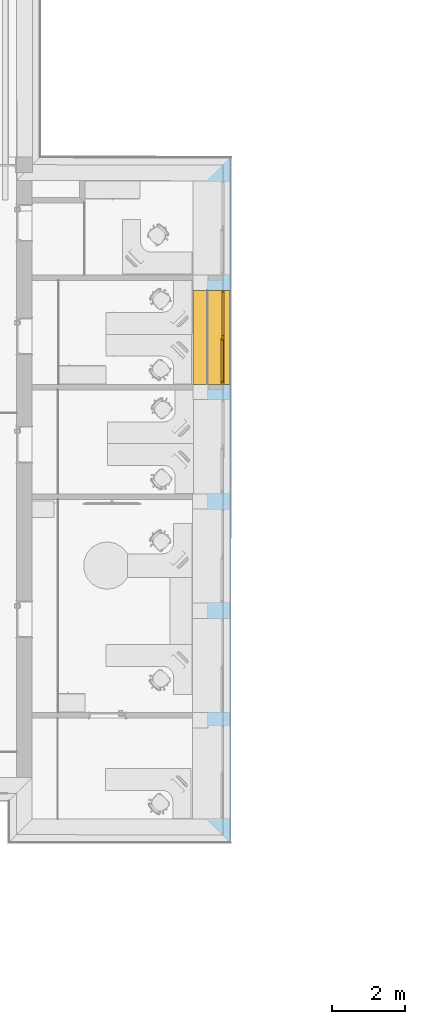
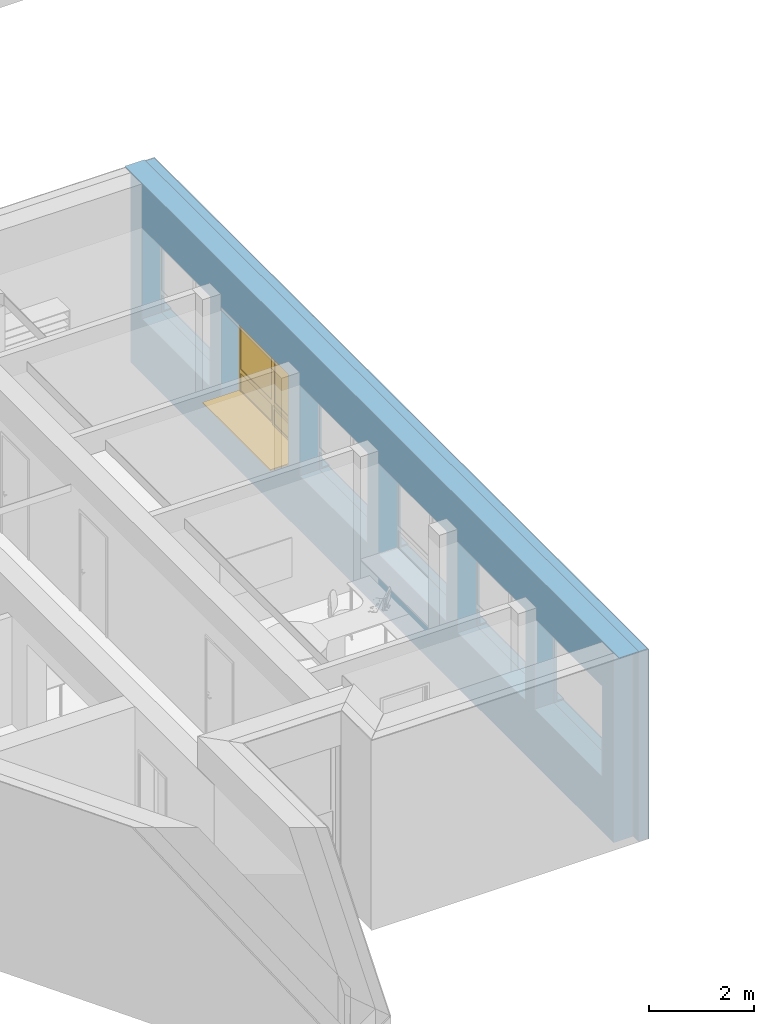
# One storey, part 80 of 194: 1 window, 6 openings, 1 element without a shape of its own, plus 3 elements that do not belong to this part.
"""IFC2X3 building model written with IfcOpenShell, lengths in millimetres."""

from ifc_helpers import new_model, entity, si_unit, converted_unit, derived_unit, money_unit, direction, frame, origin_with_axes, origin_2d_with_axis, place, context, subcontext, project, spatial, polyline, rectangle, outline, extrude, boolean, open_shell, faceted_brep, surface_model, material, type_object, element, fill, aggregate, save


model = new_model("IFC2X3")

# Units and contexts
model_context = context("Model", 3, precision=1e-05, world=origin_with_axes(), true_north=direction((0.0, 1.0)))
body_context = subcontext(model_context, "Body", "Model", "MODEL_VIEW")
ifc_project = project(units=[si_unit("LENGTHUNIT", "METRE", prefix="MILLI"), si_unit("AREAUNIT", "SQUARE_METRE"), si_unit("VOLUMEUNIT", "CUBIC_METRE"), converted_unit("PLANEANGLEUNIT", "DEGREE", entity("IfcPlaneAngleMeasure", 0.0174532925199), si_unit("PLANEANGLEUNIT", "RADIAN"), dimensions=[0, 0, 0, 0, 0, 0, 0]), si_unit("SOLIDANGLEUNIT", "STERADIAN"), money_unit("EUR"), converted_unit("TIMEUNIT", "Year", entity("IfcTimeMeasure", 31556926.0), si_unit("TIMEUNIT", "SECOND"), dimensions=[0, 0, 1, 0, 0, 0, 0]), si_unit("MASSUNIT", "GRAM", prefix="KILO"), si_unit("THERMODYNAMICTEMPERATUREUNIT", "DEGREE_CELSIUS"), si_unit("LUMINOUSINTENSITYUNIT", "LUMEN"), si_unit("ENERGYUNIT", "JOULE", prefix="MEGA"), derived_unit("THERMALCONDUCTANCEUNIT", [(si_unit("POWERUNIT", "WATT"), 1), (si_unit("LENGTHUNIT", "METRE"), -1), (si_unit("THERMODYNAMICTEMPERATUREUNIT", "KELVIN"), -1)]), derived_unit("SPECIFICHEATCAPACITYUNIT", [(si_unit("ENERGYUNIT", "JOULE"), 1), (si_unit("MASSUNIT", "GRAM", prefix="KILO"), -1), (si_unit("THERMODYNAMICTEMPERATUREUNIT", "KELVIN"), -1)]), derived_unit("MASSDENSITYUNIT", [(si_unit("MASSUNIT", "GRAM", prefix="KILO"), 1), (si_unit("VOLUMEUNIT", "CUBIC_METRE"), -1)])], contexts=[model_context])

# Site, building, storey
site_placement = place(None, origin_with_axes())
site = spatial("IfcSite", under=ifc_project, at=site_placement, Name="Site", CompositionType="ELEMENT")
building_placement = place(site_placement, origin_with_axes())
building = spatial("IfcBuilding", under=site, at=building_placement, Name="Building", CompositionType="ELEMENT")
storey_placement = place(building_placement, frame((0.0, 0.0, 3000.0), z_axis=(0.0, 0.0, 1.0), x_axis=(1.0, 0.0, 0.0)))
storey = spatial("IfcBuildingStorey", under=building, at=storey_placement, Name="2 KORRUS", CompositionType="ELEMENT", Elevation=3000.0)

# Window
window_style = type_object("IfcWindowStyle", Name="A2   2\xa0580×2\xa0100", ConstructionType="NOTDEFINED", OperationType="USERDEFINED", ParameterTakesPrecedence=False, Sizeable=False)
wall_placement = place(storey_placement, frame((45388.6906963, 4389.96789684, -420.0), z_axis=(0.0, 0.0, 1.0), x_axis=(0.000555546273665, 0.999999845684, 0.0)))
opening_4_placement = place(wall_placement, frame((13639.8047206, -1.13686837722e-10, 1270.0), z_axis=(0.0, 0.0, 1.0), x_axis=(1.0, 0.0, 0.0)))
window_placement = place(opening_4_placement, frame((-1290.0, 2.27373675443e-10, 0.0), z_axis=(0.0, 0.0, 1.0), x_axis=(1.0, 0.0, 0.0)))
window = element("IfcWindow", 1, at=window_placement, inside=storey, type_object=window_style, Name="välisaken * Double Window 22", OverallHeight=2100.0, OverallWidth=2580.0, context=body_context, shape_type="SurfaceModel", body=[
    faceted_brep([(9.09494701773e-10, -20.0000000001, 30.0), (9.09494701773e-10, -20.0000000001, 5.0), (9.09494701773e-10, -220.0, 5.0), (9.09494701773e-10, -220.0, 19.5184441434), (2580.0, -20.0, 30.0), (2580.0, -20.0, 5.0), (2580.0, -220.0, 5.0), (2580.0, -220.0, 19.5184441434)], [[[0, 1, 2, 3]], [[4, 5, 1, 0]], [[2, 1, 5, 6]], [[3, 2, 6, 7]], [[4, 0, 3, 7]], [[7, 6, 5, 4]]]),
    faceted_brep([(9.09494701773e-10, -20.0000000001, 0.0), (9.09494701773e-10, -220.0, 0.0), (9.09494701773e-10, -220.0, 5.0), (9.09494701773e-10, -20.0000000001, 5.0), (2580.0, -20.0, 0.0), (2580.0, -220.0, 0.0), (2580.0, -220.0, 5.0), (2580.0, -20.0, 5.0)], [[[0, 1, 2, 3]], [[0, 4, 5, 1]], [[1, 5, 6, 2]], [[3, 2, 6, 7]], [[4, 0, 3, 7]], [[5, 4, 7, 6]]]),
    faceted_brep([(2580.0, 30.0, 0.0), (2580.0, 430.0, 0.0), (2580.0, 430.0, 30.0), (2580.0, 30.0, 30.0), (9.09494701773e-10, 30.0, 0.0), (9.09494701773e-10, 430.0, 0.0), (9.09494701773e-10, 830.0, 0.0), (2580.0, 830.0, 0.0), (2580.0, 830.0, 30.0), (9.09494701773e-10, 830.0, 30.0), (9.09494701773e-10, 430.0, 30.0), (9.09494701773e-10, 30.0, 30.0)], [[[0, 1, 2, 3]], [[0, 4, 5, 6, 7, 1]], [[1, 7, 8, 2]], [[3, 2, 8, 9, 10, 11]], [[4, 0, 3, 11]], [[5, 4, 11, 10]], [[6, 5, 10, 9]], [[7, 6, 9, 8]]]),
    faceted_brep([(25.0000000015, 30.0, 50.0), (9.09494701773e-10, 30.0, 50.0), (9.09494701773e-10, 30.0, 2050.0), (50.0000000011, 30.0, 2050.0), (50.0000000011, 30.0, 550.0), (50.0000000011, 30.0, 475.0), (25.0000000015, 30.0, 475.0), (25.0000000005, 5.0, 50.0), (50.0000000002, 5.0, 50.0), (50.0000000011, -20.0, 50.0), (9.09494701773e-10, -20.0000000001, 50.0), (9.09494701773e-10, -20.0000000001, 2050.0), (50.0000000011, -20.0, 2050.0), (50.0000000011, -20.0, 550.0), (50.0000000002, 5.0, 475.0), (50.0000000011, -20.0, 450.0), (50.0000000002, 5.0, 450.0), (25.0000000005, 5.0, 475.0)], [[[0, 1, 2, 3, 4, 5, 6]], [[7, 8, 9, 10, 1, 0]], [[2, 1, 10, 11]], [[3, 2, 11, 12]], [[4, 3, 12, 13]], [[14, 5, 4, 13, 15, 16]], [[14, 17, 6, 5]], [[6, 17, 7, 0]], [[16, 8, 7, 17, 14]], [[16, 15, 9, 8]], [[13, 12, 11, 10, 9, 15]]]),
    faceted_brep([(1265.0, 30.0, 475.0), (1240.0, 30.0, 475.0), (1240.0, 30.0, 550.0), (1240.0, 30.0, 2050.0), (1340.0, 30.0, 2050.0), (1340.0, 30.0, 550.0), (1340.0, 30.0, 450.0), (1340.0, 30.0, 50.0), (1265.0, 30.0, 50.0), (1265.0, 5.0, 475.0), (1240.0, 5.0, 475.0), (1240.0, 5.0, 450.0), (1240.0, -20.0000000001, 450.0), (1240.0, -20.0000000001, 550.0), (1240.0, -20.0000000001, 2050.0), (1340.0, -20.0, 2050.0), (1340.0, -20.0, 550.0), (1340.0, -20.0, 450.0), (1340.0, -20.0, 50.0), (1265.0, 5.0, 50.0), (1240.0, -20.0000000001, 50.0), (1240.0, 5.0, 50.0)], [[[0, 1, 2, 3, 4, 5, 6, 7, 8]], [[0, 9, 10, 1]], [[10, 11, 12, 13, 2, 1]], [[3, 2, 13, 14]], [[4, 3, 14, 15]], [[5, 4, 15, 16]], [[6, 5, 16, 17]], [[7, 6, 17, 18]], [[19, 8, 7, 18, 20, 21]], [[8, 19, 9, 0]], [[21, 11, 10, 9, 19]], [[21, 20, 12, 11]], [[12, 20, 18, 17, 16, 15, 14, 13]]]),
    faceted_brep([(50.0000000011, 30.0, 475.0), (50.0000000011, 30.0, 550.0), (1240.0, 30.0, 550.0), (1240.0, 30.0, 475.0), (50.0000000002, 5.0, 475.0), (50.0000000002, 5.0, 450.0), (50.0000000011, -20.0, 450.0), (50.0000000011, -20.0, 550.0), (1240.0, -20.0000000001, 550.0), (1240.0, 5.0, 475.0), (1240.0, -20.0000000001, 450.0), (1240.0, 5.0, 450.0)], [[[0, 1, 2, 3]], [[4, 5, 6, 7, 1, 0]], [[2, 1, 7, 8]], [[9, 3, 2, 8, 10, 11]], [[9, 4, 0, 3]], [[11, 5, 4, 9]], [[11, 10, 6, 5]], [[8, 7, 6, 10]]]),
    faceted_brep([(1240.0, 5.0, 50.0), (1240.0, -20.0000000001, 50.0), (1340.0, -20.0, 50.0), (1340.0, 30.0, 50.0), (1265.0, 30.0, 50.0), (1265.0, 5.0, 50.0), (50.0000000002, 5.0, 50.0), (50.0000000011, -20.0, 50.0), (9.09494701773e-10, -20.0000000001, 50.0), (9.09494701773e-10, -20.0000000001, 0.0), (2580.0, -20.0, 0.0), (2580.0, -20.0, 50.0), (2530.0, -20.0, 50.0), (2530.0, 30.0, 50.0), (25.0000000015, 30.0, 25.0), (1265.0, 30.0, 25.0), (2580.0, 30.0, 50.0), (2580.0, 30.0, 0.0), (9.09494701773e-10, 30.0, 0.0), (9.09494701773e-10, 30.0, 50.0), (25.0000000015, 30.0, 50.0), (1265.0, 5.0, 25.0), (25.0000000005, 5.0, 25.0), (25.0000000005, 5.0, 50.0)], [[[0, 1, 2, 3, 4, 5]], [[6, 7, 1, 0]], [[8, 9, 10, 11, 12, 2, 1, 7]], [[13, 3, 2, 12]], [[14, 15, 4, 3, 13, 16, 17, 18, 19, 20]], [[15, 21, 5, 4]], [[5, 21, 22, 23, 6, 0]], [[23, 20, 19, 8, 7, 6]], [[19, 18, 9, 8]], [[18, 17, 10, 9]], [[17, 16, 11, 10]], [[16, 13, 12, 11]], [[14, 22, 21, 15]], [[23, 22, 14, 20]]]),
    faceted_brep([(2530.0, -20.0, 50.0), (2530.0, 30.0, 50.0), (2580.0, 30.0, 50.0), (2580.0, -20.0, 50.0), (2530.0, -20.0, 450.0), (2530.0, 30.0, 450.0), (2530.0, 30.0, 550.0), (2530.0, 30.0, 2050.0), (2580.0, 30.0, 2050.0), (2580.0, -20.0, 2050.0), (2530.0, -20.0, 2050.0), (2530.0, -20.0, 550.0)], [[[0, 1, 2, 3]], [[4, 5, 1, 0]], [[1, 5, 6, 7, 8, 2]], [[3, 2, 8, 9]], [[0, 3, 9, 10, 11, 4]], [[11, 6, 5, 4]], [[10, 7, 6, 11]], [[9, 8, 7, 10]]]),
    faceted_brep([(1340.0, -20.0, 550.0), (1340.0, 30.0, 550.0), (1340.0, 30.0, 450.0), (1340.0, -20.0, 450.0), (2530.0, -20.0, 550.0), (2530.0, 30.0, 550.0), (2530.0, 30.0, 450.0), (2530.0, -20.0, 450.0)], [[[0, 1, 2, 3]], [[4, 5, 1, 0]], [[1, 5, 6, 2]], [[3, 2, 6, 7]], [[0, 3, 7, 4]], [[7, 6, 5, 4]]]),
    faceted_brep([(1240.0, -20.0000000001, 2050.0), (1240.0, 30.0, 2050.0), (1340.0, 30.0, 2050.0), (1340.0, -20.0, 2050.0), (50.0000000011, -20.0, 2050.0), (50.0000000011, 30.0, 2050.0), (9.09494701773e-10, 30.0, 2050.0), (9.09494701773e-10, 30.0, 2100.0), (2580.0, 30.0, 2100.0), (2580.0, 30.0, 2050.0), (2530.0, 30.0, 2050.0), (2530.0, -20.0, 2050.0), (2580.0, -20.0, 2050.0), (2580.0, -20.0, 2100.0), (9.09494701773e-10, -20.0000000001, 2100.0), (9.09494701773e-10, -20.0000000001, 2050.0)], [[[0, 1, 2, 3]], [[4, 5, 1, 0]], [[1, 5, 6, 7, 8, 9, 10, 2]], [[3, 2, 10, 11]], [[0, 3, 11, 12, 13, 14, 15, 4]], [[15, 6, 5, 4]], [[14, 7, 6, 15]], [[13, 8, 7, 14]], [[12, 9, 8, 13]], [[11, 10, 9, 12]]]),
    surface_model("IfcShellBasedSurfaceModel", [(50.0000000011, -5.0, 550.0), (1240.0, -5.0, 550.0), (1240.0, -5.0, 2050.0), (50.0000000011, -5.0, 2050.0)], [open_shell([[[0, 1, 2, 3]]])]),
    surface_model("IfcShellBasedSurfaceModel", [(50.0000000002, 15.0, 550.0), (50.0000000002, 15.0, 2050.0), (1240.0, 15.0, 2050.0), (1240.0, 15.0, 550.0)], [open_shell([[[0, 1, 2, 3]]])]),
    surface_model("IfcShellBasedSurfaceModel", [(1340.0, -5.0, 550.0), (2530.0, -5.00000000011, 550.0), (2530.0, -5.00000000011, 2050.0), (1340.0, -5.0, 2050.0)], [open_shell([[[0, 1, 2, 3]]])]),
    surface_model("IfcShellBasedSurfaceModel", [(1340.0, 14.9999999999, 550.0), (1340.0, 14.9999999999, 2050.0), (2530.0, 15.0, 2050.0), (2530.0, 15.0, 550.0)], [open_shell([[[0, 1, 2, 3]]])]),
    faceted_brep([(75.0000000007, 4.99999999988, 425.0), (75.0000000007, 54.9999999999, 425.0), (25.0000000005, 55.0000000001, 425.0), (25.0000000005, 5.0, 425.0), (75.0000000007, 4.99999999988, 75.0), (75.0000000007, 54.9999999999, 75.0), (25.0000000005, 55.0000000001, 75.0), (25.0000000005, 5.0, 75.0)], [[[0, 1, 2, 3]], [[4, 5, 1, 0]], [[1, 5, 6, 2]], [[3, 2, 6, 7]], [[0, 3, 7, 4]], [[7, 6, 5, 4]]]),
    faceted_brep([(1215.0, 5.0, 75.0), (1215.0, 54.9999999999, 75.0), (1265.0, 54.9999999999, 75.0), (1265.0, 5.0, 75.0), (1215.0, 5.0, 425.0), (1215.0, 54.9999999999, 425.0), (1265.0, 54.9999999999, 425.0), (1265.0, 5.0, 425.0)], [[[0, 1, 2, 3]], [[4, 5, 1, 0]], [[1, 5, 6, 2]], [[3, 2, 6, 7]], [[0, 3, 7, 4]], [[7, 6, 5, 4]]]),
    faceted_brep([(1265.0, 5.0, 25.0), (1265.0, 54.9999999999, 25.0), (1265.0, 54.9999999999, 75.0), (1265.0, 5.0, 75.0), (25.0000000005, 5.0, 25.0), (25.0000000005, 55.0000000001, 25.0), (25.0000000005, 55.0000000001, 75.0), (75.0000000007, 54.9999999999, 75.0), (1215.0, 54.9999999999, 75.0), (1215.0, 5.0, 75.0), (75.0000000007, 4.99999999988, 75.0), (25.0000000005, 5.0, 75.0)], [[[0, 1, 2, 3]], [[4, 5, 1, 0]], [[1, 5, 6, 7, 8, 2]], [[3, 2, 8, 9]], [[0, 3, 9, 10, 11, 4]], [[11, 6, 5, 4]], [[10, 7, 6, 11]], [[9, 8, 7, 10]]]),
    faceted_brep([(25.0000000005, 5.0, 475.0), (25.0000000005, 55.0000000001, 475.0), (25.0000000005, 55.0000000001, 425.0), (25.0000000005, 5.0, 425.0), (1265.0, 5.0, 475.0), (1265.0, 54.9999999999, 475.0), (1265.0, 54.9999999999, 425.0), (1215.0, 54.9999999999, 425.0), (75.0000000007, 54.9999999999, 425.0), (75.0000000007, 4.99999999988, 425.0), (1215.0, 5.0, 425.0), (1265.0, 5.0, 425.0)], [[[0, 1, 2, 3]], [[4, 5, 1, 0]], [[1, 5, 6, 7, 8, 2]], [[3, 2, 8, 9]], [[0, 3, 9, 10, 11, 4]], [[11, 6, 5, 4]], [[10, 7, 6, 11]], [[9, 8, 7, 10]]]),
    surface_model("IfcShellBasedSurfaceModel", [(75.0000000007, 20.0000000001, 75.0), (1215.0, 19.9999999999, 75.0), (1215.0, 19.9999999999, 425.0), (75.0000000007, 20.0000000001, 425.0)], [open_shell([[[0, 1, 2, 3]]])]),
    surface_model("IfcShellBasedSurfaceModel", [(75.0000000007, 40.0, 75.0), (75.0000000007, 40.0, 425.0), (1215.0, 40.0, 425.0), (1215.0, 40.0, 75.0)], [open_shell([[[0, 1, 2, 3]]])]),
    surface_model("IfcShellBasedSurfaceModel", [(1340.0, -5.0, 50.0), (2530.0, -5.00000000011, 50.0), (2530.0, -5.00000000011, 450.0), (1340.0, -5.0, 450.0)], [open_shell([[[0, 1, 2, 3]]])]),
    surface_model("IfcShellBasedSurfaceModel", [(1340.0, 14.9999999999, 50.0), (1340.0, 14.9999999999, 450.0), (2530.0, 15.0, 450.0), (2530.0, 15.0, 50.0)], [open_shell([[[0, 1, 2, 3]]])]),
])

# Wall, openings
wall_type = type_object("IfcWallType", Name="VS4", PredefinedType="NOTDEFINED")
wall = element("IfcWall", 2, at=wall_placement, inside=storey, type_object=wall_type, Name="VS4")
opening_1_placement = place(wall_placement, frame((1719.99240846, 0.0, 1270.0), z_axis=(0.0, 0.0, 1.0), x_axis=(1.0, 0.0, 0.0)))
element("IfcOpeningElement", 3, at=opening_1_placement, cuts=wall, Name="välisaken * Double Window 22", context=body_context, shape_type="SweptSolid", body=[
    extrude(rectangle(XDim=2580.0, YDim=2100.0, at=origin_2d_with_axis()), frame((9.09494701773e-10, -20.0, 1050.0), z_axis=(0.0, -1.0, 0.0), x_axis=(1.0, 0.0, 0.0)), (0.0, 0.0, -1.0), 1100.0),
    extrude(rectangle(XDim=2580.0, YDim=2100.0, at=origin_2d_with_axis()), frame((9.09494701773e-10, -20.0000000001, 1050.0), z_axis=(0.0, 1.0, 0.0), x_axis=(1.0, 0.0, 0.0)), (0.0, 0.0, -1.0), 850.0),
])
opening_2_placement = place(wall_placement, frame((7639.96095485, 0.0, 1270.0), z_axis=(0.0, 0.0, 1.0), x_axis=(1.0, 0.0, 0.0)))
element("IfcOpeningElement", 4, at=opening_2_placement, cuts=wall, Name="välisaken * Double Window 22", context=body_context, shape_type="SweptSolid", body=[
    extrude(rectangle(XDim=2580.0, YDim=2100.0, at=origin_2d_with_axis()), frame((9.09494701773e-10, -19.9999999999, 1050.0), z_axis=(0.0, -1.0, 0.0), x_axis=(1.0, 0.0, 0.0)), (0.0, 0.0, -1.0), 1100.0),
    extrude(rectangle(XDim=2580.0, YDim=2100.0, at=origin_2d_with_axis()), frame((9.09494701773e-10, -20.0, 1050.0), z_axis=(0.0, 1.0, 0.0), x_axis=(1.0, 0.0, 0.0)), (0.0, 0.0, -1.0), 850.0),
])
opening_3_placement = place(wall_placement, frame((10639.9002006, -1.13686837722e-10, 1270.0), z_axis=(0.0, 0.0, 1.0), x_axis=(1.0, 0.0, 0.0)))
element("IfcOpeningElement", 5, at=opening_3_placement, cuts=wall, Name="välisaken * Double Window 22", context=body_context, shape_type="SweptSolid", body=[
    extrude(rectangle(XDim=2580.0, YDim=2100.0, at=origin_2d_with_axis()), frame((9.09494701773e-10, -19.9999999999, 1050.0), z_axis=(0.0, -1.0, 0.0), x_axis=(1.0, 0.0, 0.0)), (0.0, 0.0, -1.0), 1100.0),
    extrude(rectangle(XDim=2580.0, YDim=2100.0, at=origin_2d_with_axis()), frame((0.0, -20.0, 1050.0), z_axis=(0.0, 1.0, 0.0), x_axis=(1.0, 0.0, 0.0)), (0.0, 0.0, -1.0), 850.0),
])
opening_4 = element("IfcOpeningElement", 6, at=opening_4_placement, cuts=wall, Name="välisaken * Double Window 22", context=body_context, shape_type="SweptSolid", body=[
    extrude(rectangle(XDim=2580.0, YDim=2100.0, at=origin_2d_with_axis()), frame((9.09494701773e-10, -19.9999999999, 1050.0), z_axis=(0.0, -1.0, 0.0), x_axis=(1.0, 0.0, 0.0)), (0.0, 0.0, -1.0), 1100.0),
    extrude(rectangle(XDim=2580.0, YDim=2100.0, at=origin_2d_with_axis()), frame((1.81898940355e-09, -20.0, 1050.0), z_axis=(0.0, 1.0, 0.0), x_axis=(1.0, 0.0, 0.0)), (0.0, 0.0, -1.0), 850.0),
])

fill(opening_4, window)

# Opening
opening_5_placement = place(wall_placement, frame((16639.9800092, 0.0, 1270.0), z_axis=(0.0, 0.0, 1.0), x_axis=(1.0, 0.0, 0.0)))
element("IfcOpeningElement", 7, at=opening_5_placement, cuts=wall, Name="välisaken * Double Window 22", context=body_context, shape_type="SweptSolid", body=[
    extrude(rectangle(XDim=2580.0, YDim=2100.0, at=origin_2d_with_axis()), frame((0.0, -20.0000000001, 1050.0), z_axis=(0.0, -1.0, 0.0), x_axis=(1.0, 0.0, 0.0)), (0.0, 0.0, -1.0), 1100.0),
    extrude(rectangle(XDim=2580.0, YDim=2100.0, at=origin_2d_with_axis()), frame((0.0, -20.0000000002, 1050.0), z_axis=(0.0, 1.0, 0.0), x_axis=(1.0, 0.0, 0.0)), (0.0, 0.0, -1.0), 850.0),
])

opening_6_placement = place(wall_placement, frame((4639.9161327, 0.0, 1270.0), z_axis=(0.0, 0.0, 1.0), x_axis=(1.0, 0.0, 0.0)))
element("IfcOpeningElement", 8, at=opening_6_placement, cuts=wall, Name="välisaken * Double Window 22", context=body_context, shape_type="SweptSolid", body=[
    extrude(rectangle(XDim=2580.0, YDim=2100.0, at=origin_2d_with_axis()), frame((9.09494701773e-10, -20.0, 1050.0), z_axis=(0.0, -1.0, 0.0), x_axis=(1.0, 0.0, 0.0)), (0.0, 0.0, -1.0), 1100.0),
    extrude(rectangle(XDim=2580.0, YDim=2100.0, at=origin_2d_with_axis()), frame((9.09494701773e-10, -20.0000000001, 1050.0), z_axis=(0.0, 1.0, 0.0), x_axis=(1.0, 0.0, 0.0)), (0.0, 0.0, -1.0), 850.0),
])

# Building element part
ifc_material_1 = material(Name="Tellis - Konstuktsioon")
building_element_part_1_placement = place(wall_placement, origin_with_axes())
building_element_part_1 = element("IfcBuildingElementPart", 9, at=building_element_part_1_placement, material=ifc_material_1, Name="Tellis - Konstuktsioon", context=body_context, shape_type="CSG", body=[
    boolean("DIFFERENCE", boolean("DIFFERENCE", boolean("DIFFERENCE", boolean("DIFFERENCE", boolean("DIFFERENCE", boolean("DIFFERENCE", extrude(outline(polyline([(-220.007591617, 0.0), (18579.9522338, 0.0), (18579.9522338, 430.0), (-220.007591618, 430.0), (-220.007591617, 0.0)])), origin_with_axes(), (0.0, 0.0, 1.0), 4420.0), faceted_brep([(0.0, 0.0, 4400.0), (-220.000000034, -1.13686837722e-10, 4400.0), (-220.007591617, 0.0, 0.0), (0.0, 1.13686837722e-10, 0.0), (-0.00759158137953, 430.0, 4400.0), (-220.007591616, 430.0, 4400.0), (-220.007591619, 430.0, 0.0), (-0.00759158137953, 430.0, 0.0)], [[[0, 1, 2, 3]], [[1, 0, 4, 5]], [[1, 5, 6, 2]], [[7, 3, 2, 6]], [[0, 3, 7, 4]], [[4, 7, 6, 5]]])), faceted_brep([(18579.9522338, 430.0, 4420.0), (18579.0005259, 0.0, 4420.0), (18579.9522338, 0.0, 4420.0), (18579.0005263, -9.09494701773e-10, 4400.0), (18579.9522348, 429.999999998, 4400.0), (18358.9999871, -2.27373675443e-10, 4400.0), (18358.9999871, -1.13686837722e-10, 0.0), (18579.9522338, 0.0, 0.0), (18579.9522338, 430.0, 0.0), (18359.951695, 430.0, 4400.0), (18359.951695, 430.0, 0.0)], [[[0, 1, 2]], [[3, 1, 0, 4]], [[5, 6, 7, 2, 1, 3]], [[4, 0, 2, 7, 8]], [[5, 3, 4, 9]], [[6, 5, 9, 10]], [[6, 10, 8, 7]], [[9, 4, 8, 10]]])), faceted_brep([(0.111082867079, -200.0, 1300.0), (18196.9295608, -200.0, 1300.0), (18196.9295608, -200.0, 3400.0), (0.111082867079, -200.0, 3400.0), (0.0345998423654, -62.3282756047, 1300.0), (18196.8474617, -52.2191024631, 1300.0), (18196.8474617, -52.2191024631, 3400.0), (0.0345998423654, -62.3282756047, 3400.0)], [[[0, 1, 2, 3]], [[1, 0, 4, 5]], [[2, 1, 5, 6]], [[3, 2, 6, 7]], [[0, 3, 7, 4]], [[5, 4, 7, 6]]])), faceted_brep([(-199.996469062, -200.0, 0.0), (-199.996469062, -200.0, 4400.0), (18558.5578221, -200.0, 4400.0), (18558.5578221, -200.0, 0.0), (18579.9522338, -200.0, 0.0), (18579.9522338, -200.0, 4420.0), (-220.007591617, -200.0, 4420.0), (-220.007591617, -200.0, 0.0), (-200.000000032, 0.0, 0.0), (-200.000000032, -1.13686837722e-10, 4400.0), (18358.9999871, -2.27373675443e-10, 4400.0), (18559.0004769, 0.0, 4400.0), (18559.0004769, 0.0, 0.0), (18579.9522338, 0.0, 0.0), (18579.9522338, 0.0, 4420.0), (-220.007591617, 0.0, 4420.0), (-220.007591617, 0.0, 0.0)], [[[0, 1, 2, 3, 4, 5, 6, 7]], [[1, 0, 8, 9]], [[10, 11, 2, 1, 9]], [[3, 2, 11, 12]], [[3, 12, 13, 4]], [[5, 4, 13, 14]], [[15, 6, 5, 14]], [[15, 16, 7, 6]], [[8, 0, 7, 16]], [[9, 8, 16, 15, 14, 13, 12, 11, 10]]])), faceted_brep([(0.111082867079, -200.0, 1300.0), (0.111082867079, -200.0, 3400.0), (18196.9295608, -200.0, 3400.0), (18196.9295608, -200.0, 1300.0), (0.122193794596, -220.0, 1300.0), (0.122193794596, -220.0, 3400.0), (18196.9406717, -220.0, 3400.0), (18196.9406717, -220.0, 1300.0)], [[[0, 1, 2, 3]], [[4, 5, 1, 0]], [[5, 6, 2, 1]], [[6, 7, 3, 2]], [[7, 4, 0, 3]], [[4, 7, 6, 5]]])), faceted_brep([(-219.996115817, -220.0, 4400.0), (18558.5135566, -220.0, 4400.0), (18578.5136056, -220.0, 4400.0), (18578.5136056, -220.0, 0.0), (18579.9522338, -220.0, 0.0), (18579.9522338, -220.0, 4420.0), (-220.007591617, -220.0, 4420.0), (-220.007591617, -220.0, 0.0), (-219.996115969, -220.0, 0.0), (-219.996468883, -200.0, 4400.0), (18558.5578221, -200.0, 4400.0), (18578.5578711, -200.0, 4400.0), (18578.5578711, -200.0, 0.0), (18579.9522338, -200.0, 0.0), (18579.9522338, -200.0, 4420.0), (-220.007591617, -200.0, 4420.0), (-220.007591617, -200.0, 0.0), (-219.996469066, -200.0, 0.0)], [[[0, 1, 2, 3, 4, 5, 6, 7, 8]], [[2, 1, 0, 9, 10, 11]], [[3, 2, 11, 12]], [[3, 12, 13, 4]], [[5, 4, 13, 14]], [[15, 6, 5, 14]], [[15, 16, 7, 6]], [[17, 8, 7, 16]], [[0, 8, 17, 9]], [[9, 17, 16, 15, 14, 13, 12, 11, 10]]])),
])

ifc_material_2 = material(Name="Soojustus - Plastik Kõva")
building_element_part_2_placement = place(wall_placement, origin_with_axes())
building_element_part_2 = element("IfcBuildingElementPart", 10, at=building_element_part_2_placement, material=ifc_material_2, Name="Soojustus - Plastik Kõva", context=body_context, shape_type="CSG", body=[
    boolean("DIFFERENCE", boolean("DIFFERENCE", boolean("DIFFERENCE", boolean("DIFFERENCE", boolean("DIFFERENCE", boolean("DIFFERENCE", extrude(outline(polyline([(-220.007591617, -200.0), (18579.9522338, -200.0), (18579.9522338, 0.0), (-220.007591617, 0.0), (-220.007591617, -200.0)])), origin_with_axes(), (0.0, 0.0, 1.0), 4420.0), faceted_brep([(0.0, 0.0, 4400.0), (-220.000000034, -1.13686837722e-10, 4400.0), (-220.007591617, 0.0, 0.0), (0.0, 1.13686837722e-10, 0.0), (-0.00759158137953, 430.0, 4400.0), (-220.007591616, 430.0, 4400.0), (-220.007591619, 430.0, 0.0), (-0.00759158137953, 430.0, 0.0)], [[[0, 1, 2, 3]], [[1, 0, 4, 5]], [[1, 5, 6, 2]], [[7, 3, 2, 6]], [[0, 3, 7, 4]], [[4, 7, 6, 5]]])), faceted_brep([(18579.9522338, 430.0, 4420.0), (18579.0005259, 0.0, 4420.0), (18579.9522338, 0.0, 4420.0), (18579.0005263, -9.09494701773e-10, 4400.0), (18579.9522348, 429.999999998, 4400.0), (18358.9999871, -2.27373675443e-10, 4400.0), (18358.9999871, -1.13686837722e-10, 0.0), (18579.9522338, 0.0, 0.0), (18579.9522338, 430.0, 0.0), (18359.951695, 430.0, 4400.0), (18359.951695, 430.0, 0.0)], [[[0, 1, 2]], [[3, 1, 0, 4]], [[5, 6, 7, 2, 1, 3]], [[4, 0, 2, 7, 8]], [[5, 3, 4, 9]], [[6, 5, 9, 10]], [[6, 10, 8, 7]], [[9, 4, 8, 10]]])), faceted_brep([(0.111082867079, -200.0, 1300.0), (18196.9295608, -200.0, 1300.0), (18196.9295608, -200.0, 3400.0), (0.111082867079, -200.0, 3400.0), (0.0345998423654, -62.3282756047, 1300.0), (18196.8474617, -52.2191024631, 1300.0), (18196.8474617, -52.2191024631, 3400.0), (0.0345998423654, -62.3282756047, 3400.0)], [[[0, 1, 2, 3]], [[1, 0, 4, 5]], [[2, 1, 5, 6]], [[3, 2, 6, 7]], [[0, 3, 7, 4]], [[5, 4, 7, 6]]])), faceted_brep([(-199.996469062, -200.0, 0.0), (-199.996469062, -200.0, 4400.0), (18558.5578221, -200.0, 4400.0), (18558.5578221, -200.0, 0.0), (18579.9522338, -200.0, 0.0), (18579.9522338, -200.0, 4420.0), (-220.007591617, -200.0, 4420.0), (-220.007591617, -200.0, 0.0), (-200.000000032, 0.0, 0.0), (-200.000000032, -1.13686837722e-10, 4400.0), (18358.9999871, -2.27373675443e-10, 4400.0), (18559.0004769, 0.0, 4400.0), (18559.0004769, 0.0, 0.0), (18579.9522338, 0.0, 0.0), (18579.9522338, 0.0, 4420.0), (-220.007591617, 0.0, 4420.0), (-220.007591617, 0.0, 0.0)], [[[0, 1, 2, 3, 4, 5, 6, 7]], [[1, 0, 8, 9]], [[10, 11, 2, 1, 9]], [[3, 2, 11, 12]], [[3, 12, 13, 4]], [[5, 4, 13, 14]], [[15, 6, 5, 14]], [[15, 16, 7, 6]], [[8, 0, 7, 16]], [[9, 8, 16, 15, 14, 13, 12, 11, 10]]])), faceted_brep([(0.111082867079, -200.0, 1300.0), (0.111082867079, -200.0, 3400.0), (18196.9295608, -200.0, 3400.0), (18196.9295608, -200.0, 1300.0), (0.122193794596, -220.0, 1300.0), (0.122193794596, -220.0, 3400.0), (18196.9406717, -220.0, 3400.0), (18196.9406717, -220.0, 1300.0)], [[[0, 1, 2, 3]], [[4, 5, 1, 0]], [[5, 6, 2, 1]], [[6, 7, 3, 2]], [[7, 4, 0, 3]], [[4, 7, 6, 5]]])), faceted_brep([(-219.996115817, -220.0, 4400.0), (18558.5135566, -220.0, 4400.0), (18578.5136056, -220.0, 4400.0), (18578.5136056, -220.0, 0.0), (18579.9522338, -220.0, 0.0), (18579.9522338, -220.0, 4420.0), (-220.007591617, -220.0, 4420.0), (-220.007591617, -220.0, 0.0), (-219.996115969, -220.0, 0.0), (-219.996468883, -200.0, 4400.0), (18558.5578221, -200.0, 4400.0), (18578.5578711, -200.0, 4400.0), (18578.5578711, -200.0, 0.0), (18579.9522338, -200.0, 0.0), (18579.9522338, -200.0, 4420.0), (-220.007591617, -200.0, 4420.0), (-220.007591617, -200.0, 0.0), (-219.996469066, -200.0, 0.0)], [[[0, 1, 2, 3, 4, 5, 6, 7, 8]], [[2, 1, 0, 9, 10, 11]], [[3, 2, 11, 12]], [[3, 12, 13, 4]], [[5, 4, 13, 14]], [[15, 6, 5, 14]], [[15, 16, 7, 6]], [[17, 8, 7, 16]], [[0, 8, 17, 9]], [[9, 17, 16, 15, 14, 13, 12, 11, 10]]])),
])

ifc_material_3 = material(Name="Tellis - Viimistlus")
building_element_part_3_placement = place(wall_placement, origin_with_axes())
building_element_part_3 = element("IfcBuildingElementPart", 11, at=building_element_part_3_placement, material=ifc_material_3, Name="Tellis - Viimistlus", context=body_context, shape_type="CSG", body=[
    boolean("DIFFERENCE", boolean("DIFFERENCE", boolean("DIFFERENCE", boolean("DIFFERENCE", boolean("DIFFERENCE", boolean("DIFFERENCE", extrude(outline(polyline([(-220.007591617, -220.0), (18579.9522338, -220.0), (18579.9522338, -200.0), (-220.007591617, -200.0), (-220.007591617, -220.0)])), origin_with_axes(), (0.0, 0.0, 1.0), 4420.0), faceted_brep([(0.0, 0.0, 4400.0), (-220.000000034, -1.13686837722e-10, 4400.0), (-220.007591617, 0.0, 0.0), (0.0, 1.13686837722e-10, 0.0), (-0.00759158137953, 430.0, 4400.0), (-220.007591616, 430.0, 4400.0), (-220.007591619, 430.0, 0.0), (-0.00759158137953, 430.0, 0.0)], [[[0, 1, 2, 3]], [[1, 0, 4, 5]], [[1, 5, 6, 2]], [[7, 3, 2, 6]], [[0, 3, 7, 4]], [[4, 7, 6, 5]]])), faceted_brep([(18579.9522338, 430.0, 4420.0), (18579.0005259, 0.0, 4420.0), (18579.9522338, 0.0, 4420.0), (18579.0005263, -9.09494701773e-10, 4400.0), (18579.9522348, 429.999999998, 4400.0), (18358.9999871, -2.27373675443e-10, 4400.0), (18358.9999871, -1.13686837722e-10, 0.0), (18579.9522338, 0.0, 0.0), (18579.9522338, 430.0, 0.0), (18359.951695, 430.0, 4400.0), (18359.951695, 430.0, 0.0)], [[[0, 1, 2]], [[3, 1, 0, 4]], [[5, 6, 7, 2, 1, 3]], [[4, 0, 2, 7, 8]], [[5, 3, 4, 9]], [[6, 5, 9, 10]], [[6, 10, 8, 7]], [[9, 4, 8, 10]]])), faceted_brep([(0.111082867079, -200.0, 1300.0), (18196.9295608, -200.0, 1300.0), (18196.9295608, -200.0, 3400.0), (0.111082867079, -200.0, 3400.0), (0.0345998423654, -62.3282756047, 1300.0), (18196.8474617, -52.2191024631, 1300.0), (18196.8474617, -52.2191024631, 3400.0), (0.0345998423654, -62.3282756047, 3400.0)], [[[0, 1, 2, 3]], [[1, 0, 4, 5]], [[2, 1, 5, 6]], [[3, 2, 6, 7]], [[0, 3, 7, 4]], [[5, 4, 7, 6]]])), faceted_brep([(-199.996469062, -200.0, 0.0), (-199.996469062, -200.0, 4400.0), (18558.5578221, -200.0, 4400.0), (18558.5578221, -200.0, 0.0), (18579.9522338, -200.0, 0.0), (18579.9522338, -200.0, 4420.0), (-220.007591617, -200.0, 4420.0), (-220.007591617, -200.0, 0.0), (-200.000000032, 0.0, 0.0), (-200.000000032, -1.13686837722e-10, 4400.0), (18358.9999871, -2.27373675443e-10, 4400.0), (18559.0004769, 0.0, 4400.0), (18559.0004769, 0.0, 0.0), (18579.9522338, 0.0, 0.0), (18579.9522338, 0.0, 4420.0), (-220.007591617, 0.0, 4420.0), (-220.007591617, 0.0, 0.0)], [[[0, 1, 2, 3, 4, 5, 6, 7]], [[1, 0, 8, 9]], [[10, 11, 2, 1, 9]], [[3, 2, 11, 12]], [[3, 12, 13, 4]], [[5, 4, 13, 14]], [[15, 6, 5, 14]], [[15, 16, 7, 6]], [[8, 0, 7, 16]], [[9, 8, 16, 15, 14, 13, 12, 11, 10]]])), faceted_brep([(0.111082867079, -200.0, 1300.0), (0.111082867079, -200.0, 3400.0), (18196.9295608, -200.0, 3400.0), (18196.9295608, -200.0, 1300.0), (0.122193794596, -220.0, 1300.0), (0.122193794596, -220.0, 3400.0), (18196.9406717, -220.0, 3400.0), (18196.9406717, -220.0, 1300.0)], [[[0, 1, 2, 3]], [[4, 5, 1, 0]], [[5, 6, 2, 1]], [[6, 7, 3, 2]], [[7, 4, 0, 3]], [[4, 7, 6, 5]]])), faceted_brep([(-219.996115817, -220.0, 4400.0), (18558.5135566, -220.0, 4400.0), (18578.5136056, -220.0, 4400.0), (18578.5136056, -220.0, 0.0), (18579.9522338, -220.0, 0.0), (18579.9522338, -220.0, 4420.0), (-220.007591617, -220.0, 4420.0), (-220.007591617, -220.0, 0.0), (-219.996115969, -220.0, 0.0), (-219.996468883, -200.0, 4400.0), (18558.5578221, -200.0, 4400.0), (18578.5578711, -200.0, 4400.0), (18578.5578711, -200.0, 0.0), (18579.9522338, -200.0, 0.0), (18579.9522338, -200.0, 4420.0), (-220.007591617, -200.0, 4420.0), (-220.007591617, -200.0, 0.0), (-219.996469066, -200.0, 0.0)], [[[0, 1, 2, 3, 4, 5, 6, 7, 8]], [[2, 1, 0, 9, 10, 11]], [[3, 2, 11, 12]], [[3, 12, 13, 4]], [[5, 4, 13, 14]], [[15, 6, 5, 14]], [[15, 16, 7, 6]], [[17, 8, 7, 16]], [[0, 8, 17, 9]], [[9, 17, 16, 15, 14, 13, 12, 11, 10]]])),
])

aggregate(wall, [building_element_part_1, building_element_part_2, building_element_part_3])

save(model, "model.ifc")
